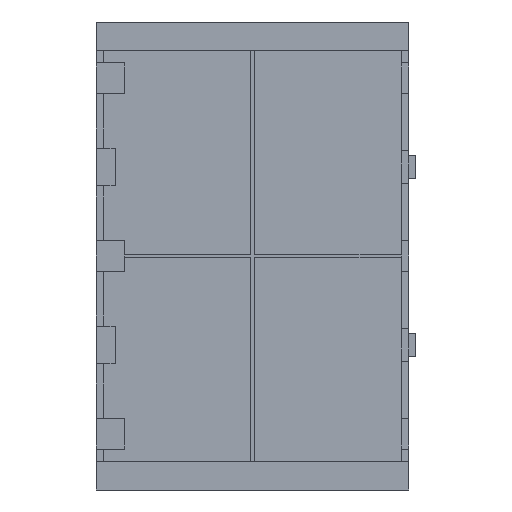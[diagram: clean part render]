
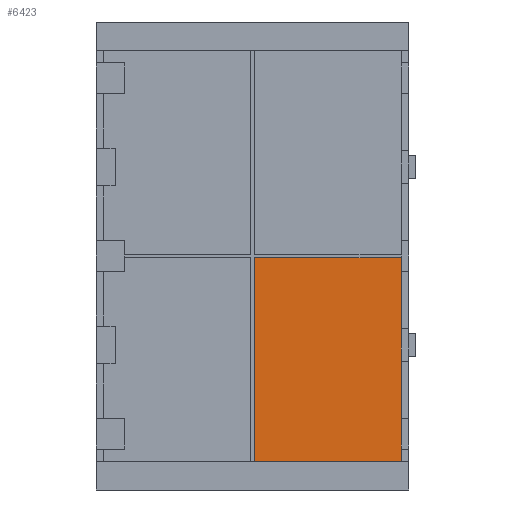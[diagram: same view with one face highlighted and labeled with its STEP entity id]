
A CAD part, left-side view. The second image highlights one B-rep face of the part: STEP entity #6423.
In plain terms, the highlighted planar face has unit normal (-1, 0, 0).
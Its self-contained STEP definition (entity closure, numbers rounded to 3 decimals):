
#100 = PLANE('',#101);
#101 = AXIS2_PLACEMENT_3D('',#102,#103,#104);
#102 = CARTESIAN_POINT('',(112.,0.,12.));
#103 = DIRECTION('',(0.,0.,1.));
#104 = DIRECTION('',(1.,0.,0.));
#1717 = VERTEX_POINT('',#1718);
#1718 = CARTESIAN_POINT('',(138.8,3.,12.));
#1731 = PLANE('',#1732);
#1732 = AXIS2_PLACEMENT_3D('',#1733,#1734,#1735);
#1733 = CARTESIAN_POINT('',(128.8,3.,0.));
#1734 = DIRECTION('',(0.,1.,0.));
#1735 = DIRECTION('',(0.,0.,1.));
#1743 = EDGE_CURVE('',#1744,#1717,#1746,.T.);
#1744 = VERTEX_POINT('',#1745);
#1745 = CARTESIAN_POINT('',(138.8,65.875,12.));
#1746 = SURFACE_CURVE('',#1747,(#1751,#1757),.PCURVE_S1.);
#1747 = LINE('',#1748,#1749);
#1748 = CARTESIAN_POINT('',(138.8,0.,12.));
#1749 = VECTOR('',#1750,1.);
#1750 = DIRECTION('',(0.,-1.,0.));
#1751 = PCURVE('',#100,#1752);
#1752 = DEFINITIONAL_REPRESENTATION('',(#1753),#1756);
#1753 = B_SPLINE_CURVE_WITH_KNOTS('',1,(#1754,#1755),.UNSPECIFIED.,.F.,
  .F.,(2,2),(-133.35,0.),.PIECEWISE_BEZIER_KNOTS.);
#1754 = CARTESIAN_POINT('',(26.8,133.35));
#1755 = CARTESIAN_POINT('',(26.8,0.));
#1756 = ( GEOMETRIC_REPRESENTATION_CONTEXT(2) 
PARAMETRIC_REPRESENTATION_CONTEXT() REPRESENTATION_CONTEXT('2D SPACE',''
  ) );
#1757 = PCURVE('',#1758,#1763);
#1758 = PLANE('',#1759);
#1759 = AXIS2_PLACEMENT_3D('',#1760,#1761,#1762);
#1760 = CARTESIAN_POINT('',(138.8,0.,0.));
#1761 = DIRECTION('',(1.,0.,0.));
#1762 = DIRECTION('',(0.,0.,1.));
#1763 = DEFINITIONAL_REPRESENTATION('',(#1764),#1767);
#1764 = B_SPLINE_CURVE_WITH_KNOTS('',1,(#1765,#1766),.UNSPECIFIED.,.F.,
  .F.,(2,2),(-133.35,0.),.PIECEWISE_BEZIER_KNOTS.);
#1765 = CARTESIAN_POINT('',(12.,-133.35));
#1766 = CARTESIAN_POINT('',(12.,0.));
#1767 = ( GEOMETRIC_REPRESENTATION_CONTEXT(2) 
PARAMETRIC_REPRESENTATION_CONTEXT() REPRESENTATION_CONTEXT('2D SPACE',''
  ) );
#1785 = PLANE('',#1786);
#1786 = AXIS2_PLACEMENT_3D('',#1787,#1788,#1789);
#1787 = CARTESIAN_POINT('',(128.8,65.875,12.));
#1788 = DIRECTION('',(0.,1.,0.));
#1789 = DIRECTION('',(0.,0.,1.));
#3855 = PLANE('',#3856);
#3856 = AXIS2_PLACEMENT_3D('',#3857,#3858,#3859);
#3857 = CARTESIAN_POINT('',(128.8,0.,99.2));
#3858 = DIRECTION('',(0.,0.,1.));
#3859 = DIRECTION('',(1.,0.,0.));
#6385 = VERTEX_POINT('',#6386);
#6386 = CARTESIAN_POINT('',(138.8,65.875,99.2));
#6405 = EDGE_CURVE('',#1744,#6385,#6406,.T.);
#6406 = SURFACE_CURVE('',#6407,(#6411,#6417),.PCURVE_S1.);
#6407 = LINE('',#6408,#6409);
#6408 = CARTESIAN_POINT('',(138.8,65.875,6.));
#6409 = VECTOR('',#6410,1.);
#6410 = DIRECTION('',(0.,0.,1.));
#6411 = PCURVE('',#1785,#6412);
#6412 = DEFINITIONAL_REPRESENTATION('',(#6413),#6416);
#6413 = B_SPLINE_CURVE_WITH_KNOTS('',1,(#6414,#6415),.UNSPECIFIED.,.F.,
  .F.,(2,2),(6.,182.),.PIECEWISE_BEZIER_KNOTS.);
#6414 = CARTESIAN_POINT('',(0.,10.));
#6415 = CARTESIAN_POINT('',(176.,10.));
#6416 = ( GEOMETRIC_REPRESENTATION_CONTEXT(2) 
PARAMETRIC_REPRESENTATION_CONTEXT() REPRESENTATION_CONTEXT('2D SPACE',''
  ) );
#6417 = PCURVE('',#1758,#6418);
#6418 = DEFINITIONAL_REPRESENTATION('',(#6419),#6422);
#6419 = B_SPLINE_CURVE_WITH_KNOTS('',1,(#6420,#6421),.UNSPECIFIED.,.F.,
  .F.,(2,2),(6.,182.),.PIECEWISE_BEZIER_KNOTS.);
#6420 = CARTESIAN_POINT('',(12.,-65.875));
#6421 = CARTESIAN_POINT('',(188.,-65.875));
#6422 = ( GEOMETRIC_REPRESENTATION_CONTEXT(2) 
PARAMETRIC_REPRESENTATION_CONTEXT() REPRESENTATION_CONTEXT('2D SPACE',''
  ) );
#6423 = ADVANCED_FACE('',(#6424),#1758,.F.);
#6424 = FACE_BOUND('',#6425,.F.);
#6425 = EDGE_LOOP('',(#6426,#6449,#6450,#6451));
#6426 = ORIENTED_EDGE('',*,*,#6427,.T.);
#6427 = EDGE_CURVE('',#6428,#1717,#6430,.T.);
#6428 = VERTEX_POINT('',#6429);
#6429 = CARTESIAN_POINT('',(138.8,3.,99.2));
#6430 = SURFACE_CURVE('',#6431,(#6435,#6442),.PCURVE_S1.);
#6431 = LINE('',#6432,#6433);
#6432 = CARTESIAN_POINT('',(138.8,3.,99.2));
#6433 = VECTOR('',#6434,1.);
#6434 = DIRECTION('',(0.,0.,-1.));
#6435 = PCURVE('',#1758,#6436);
#6436 = DEFINITIONAL_REPRESENTATION('',(#6437),#6441);
#6437 = LINE('',#6438,#6439);
#6438 = CARTESIAN_POINT('',(99.2,-3.));
#6439 = VECTOR('',#6440,1.);
#6440 = DIRECTION('',(-1.,0.));
#6441 = ( GEOMETRIC_REPRESENTATION_CONTEXT(2) 
PARAMETRIC_REPRESENTATION_CONTEXT() REPRESENTATION_CONTEXT('2D SPACE',''
  ) );
#6442 = PCURVE('',#1731,#6443);
#6443 = DEFINITIONAL_REPRESENTATION('',(#6444),#6448);
#6444 = LINE('',#6445,#6446);
#6445 = CARTESIAN_POINT('',(99.2,10.));
#6446 = VECTOR('',#6447,1.);
#6447 = DIRECTION('',(-1.,0.));
#6448 = ( GEOMETRIC_REPRESENTATION_CONTEXT(2) 
PARAMETRIC_REPRESENTATION_CONTEXT() REPRESENTATION_CONTEXT('2D SPACE',''
  ) );
#6449 = ORIENTED_EDGE('',*,*,#1743,.F.);
#6450 = ORIENTED_EDGE('',*,*,#6405,.T.);
#6451 = ORIENTED_EDGE('',*,*,#6452,.T.);
#6452 = EDGE_CURVE('',#6385,#6428,#6453,.T.);
#6453 = SURFACE_CURVE('',#6454,(#6458,#6464),.PCURVE_S1.);
#6454 = LINE('',#6455,#6456);
#6455 = CARTESIAN_POINT('',(138.8,0.,99.2));
#6456 = VECTOR('',#6457,1.);
#6457 = DIRECTION('',(0.,-1.,0.));
#6458 = PCURVE('',#1758,#6459);
#6459 = DEFINITIONAL_REPRESENTATION('',(#6460),#6463);
#6460 = B_SPLINE_CURVE_WITH_KNOTS('',1,(#6461,#6462),.UNSPECIFIED.,.F.,
  .F.,(2,2),(-65.875,0.),.PIECEWISE_BEZIER_KNOTS.);
#6461 = CARTESIAN_POINT('',(99.2,-65.875));
#6462 = CARTESIAN_POINT('',(99.2,0.));
#6463 = ( GEOMETRIC_REPRESENTATION_CONTEXT(2) 
PARAMETRIC_REPRESENTATION_CONTEXT() REPRESENTATION_CONTEXT('2D SPACE',''
  ) );
#6464 = PCURVE('',#3855,#6465);
#6465 = DEFINITIONAL_REPRESENTATION('',(#6466),#6469);
#6466 = B_SPLINE_CURVE_WITH_KNOTS('',1,(#6467,#6468),.UNSPECIFIED.,.F.,
  .F.,(2,2),(-65.875,0.),.PIECEWISE_BEZIER_KNOTS.);
#6467 = CARTESIAN_POINT('',(10.,65.875));
#6468 = CARTESIAN_POINT('',(10.,0.));
#6469 = ( GEOMETRIC_REPRESENTATION_CONTEXT(2) 
PARAMETRIC_REPRESENTATION_CONTEXT() REPRESENTATION_CONTEXT('2D SPACE',''
  ) );
